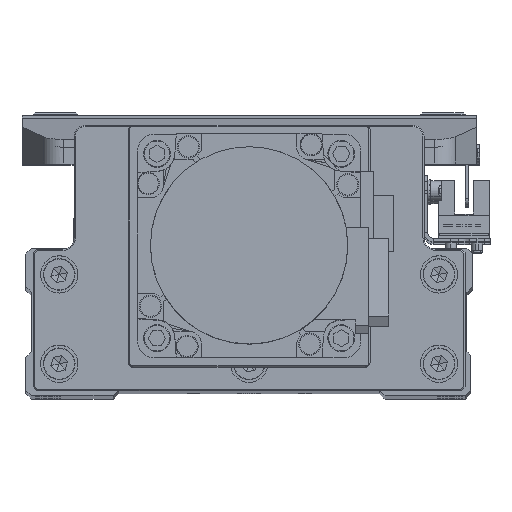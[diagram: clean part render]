
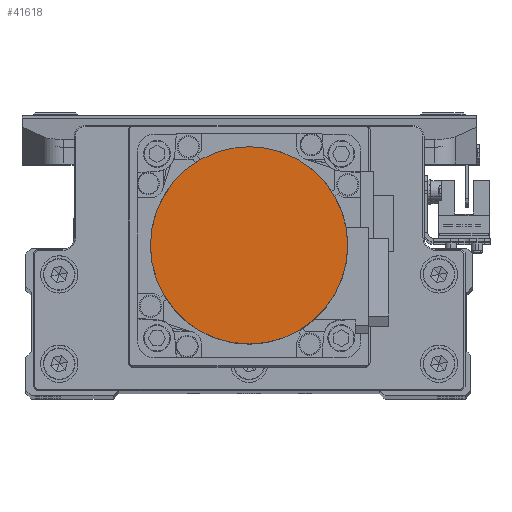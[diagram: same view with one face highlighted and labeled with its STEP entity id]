
A CAD part, top view. The second image highlights one B-rep face of the part: STEP entity #41618.
In plain terms, the highlighted planar face has unit normal (0, 0, 1) as drawn and (0, 0, -1) by its records, which use the part's own axes.
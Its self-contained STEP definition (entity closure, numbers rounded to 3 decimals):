
#660 = AXIS2_PLACEMENT_3D ( 'NONE', #36665, #7423, #20473 ) ;
#1077 = CARTESIAN_POINT ( 'NONE',  ( 0., 0., -109.7 ) ) ;
#3609 = ORIENTED_EDGE ( 'NONE', *, *, #35681, .F. ) ;
#7423 = DIRECTION ( 'NONE',  ( 0., 0., 1. ) ) ;
#12240 = DIRECTION ( 'NONE',  ( 0., 0., 1. ) ) ;
#14142 = DIRECTION ( 'NONE',  ( 0., 0., 1. ) ) ;
#15428 = FACE_OUTER_BOUND ( 'NONE', #40067, .T. ) ;
#17320 = CIRCLE ( 'NONE', #41195, 26.5 ) ;
#19104 = CIRCLE ( 'NONE', #660, 26.5 ) ;
#19278 = CARTESIAN_POINT ( 'NONE',  ( -26.5, 0., -109.7 ) ) ;
#20241 = ORIENTED_EDGE ( 'NONE', *, *, #30452, .F. ) ;
#20473 = DIRECTION ( 'NONE',  ( 1., 0., 0. ) ) ;
#24686 = VERTEX_POINT ( 'NONE', #19278 ) ;
#25273 = DIRECTION ( 'NONE',  ( 1., 0., 0. ) ) ;
#27182 = DIRECTION ( 'NONE',  ( -1., 0., 0. ) ) ;
#28460 = PLANE ( 'NONE',  #35973 ) ;
#30452 = EDGE_CURVE ( 'NONE', #24686, #32344, #17320, .T. ) ;
#32344 = VERTEX_POINT ( 'NONE', #41680 ) ;
#35681 = EDGE_CURVE ( 'NONE', #32344, #24686, #19104, .T. ) ;
#35973 = AXIS2_PLACEMENT_3D ( 'NONE', #41480, #12240, #25273 ) ;
#36665 = CARTESIAN_POINT ( 'NONE',  ( 0., 0., -109.7 ) ) ;
#40067 = EDGE_LOOP ( 'NONE', ( #20241, #3609 ) ) ;
#41195 = AXIS2_PLACEMENT_3D ( 'NONE', #1077, #14142, #27182 ) ;
#41480 = CARTESIAN_POINT ( 'NONE',  ( 0., 0., -109.7 ) ) ;
#41618 = ADVANCED_FACE ( 'NONE', ( #15428 ), #28460, .F. ) ;
#41680 = CARTESIAN_POINT ( 'NONE',  ( 26.5, 0., -109.7 ) ) ;
